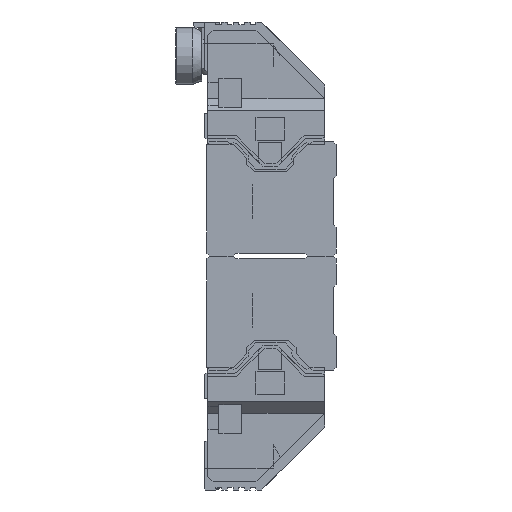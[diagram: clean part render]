
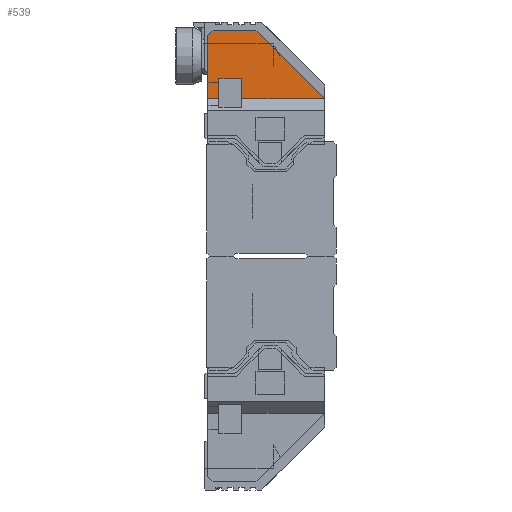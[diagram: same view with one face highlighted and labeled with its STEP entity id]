
A CAD part, left-side view. The second image highlights one B-rep face of the part: STEP entity #539.
In plain terms, the highlighted planar face has unit normal (-1, 0, 0).
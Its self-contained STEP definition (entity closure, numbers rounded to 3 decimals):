
#539 = ADVANCED_FACE( '', ( #1993 ), #1994, .T. );
#1993 = FACE_OUTER_BOUND( '', #4359, .T. );
#1994 = PLANE( '', #4360 );
#4359 = EDGE_LOOP( '', ( #7710, #7711, #7712, #7713, #7714, #7715, #7716, #7717, #7718 ) );
#4360 = AXIS2_PLACEMENT_3D( '', #7719, #7720, #7721 );
#7710 = ORIENTED_EDGE( '', *, *, #12203, .F. );
#7711 = ORIENTED_EDGE( '', *, *, #12212, .T. );
#7712 = ORIENTED_EDGE( '', *, *, #12204, .T. );
#7713 = ORIENTED_EDGE( '', *, *, #12217, .T. );
#7714 = ORIENTED_EDGE( '', *, *, #12218, .F. );
#7715 = ORIENTED_EDGE( '', *, *, #12219, .F. );
#7716 = ORIENTED_EDGE( '', *, *, #12220, .F. );
#7717 = ORIENTED_EDGE( '', *, *, #12221, .F. );
#7718 = ORIENTED_EDGE( '', *, *, #12213, .T. );
#7719 = CARTESIAN_POINT( '', ( -49., 16.5, 48. ) );
#7720 = DIRECTION( '', ( -1., 0., 0. ) );
#7721 = DIRECTION( '', ( 0., 0., 1. ) );
#12203 = EDGE_CURVE( '', #14513, #14506, #14515, .T. );
#12204 = EDGE_CURVE( '', #14516, #14517, #14518, .T. );
#12212 = EDGE_CURVE( '', #14513, #14516, #14529, .T. );
#12213 = EDGE_CURVE( '', #14530, #14506, #14531, .T. );
#12217 = EDGE_CURVE( '', #14517, #14536, #14538, .T. );
#12218 = EDGE_CURVE( '', #14539, #14536, #14540, .T. );
#12219 = EDGE_CURVE( '', #14541, #14539, #14542, .T. );
#12220 = EDGE_CURVE( '', #14543, #14541, #14544, .T. );
#12221 = EDGE_CURVE( '', #14530, #14543, #14545, .T. );
#14506 = VERTEX_POINT( '', #17760 );
#14513 = VERTEX_POINT( '', #17770 );
#14515 = LINE( '', #17773, #17774 );
#14516 = VERTEX_POINT( '', #17775 );
#14517 = VERTEX_POINT( '', #17776 );
#14518 = LINE( '', #17777, #17778 );
#14529 = LINE( '', #17796, #17797 );
#14530 = VERTEX_POINT( '', #17798 );
#14531 = LINE( '', #17799, #17800 );
#14536 = VERTEX_POINT( '', #17807 );
#14538 = LINE( '', #17810, #17811 );
#14539 = VERTEX_POINT( '', #17812 );
#14540 = LINE( '', #17813, #17814 );
#14541 = VERTEX_POINT( '', #17815 );
#14542 = LINE( '', #17816, #17817 );
#14543 = VERTEX_POINT( '', #17818 );
#14544 = LINE( '', #17819, #17820 );
#14545 = LINE( '', #17821, #17822 );
#17760 = CARTESIAN_POINT( '', ( -49., 9.2, 18. ) );
#17770 = CARTESIAN_POINT( '', ( -49., 9.2, 21.5 ) );
#17773 = CARTESIAN_POINT( '', ( -49., 9.2, 48. ) );
#17774 = VECTOR( '', #21788, 1000. );
#17775 = CARTESIAN_POINT( '', ( -49., 5.2, 21.5 ) );
#17776 = CARTESIAN_POINT( '', ( -49., 5.2, 18. ) );
#17777 = CARTESIAN_POINT( '', ( -49., 5.2, 48. ) );
#17778 = VECTOR( '', #21789, 1000. );
#17796 = CARTESIAN_POINT( '', ( -49., 16.5, 21.5 ) );
#17797 = VECTOR( '', #21797, 1000. );
#17798 = CARTESIAN_POINT( '', ( -49., 11.2, 18. ) );
#17799 = CARTESIAN_POINT( '', ( -49., 16.5, 18. ) );
#17800 = VECTOR( '', #21798, 1000. );
#17807 = CARTESIAN_POINT( '', ( -49., -9.3, 18. ) );
#17810 = CARTESIAN_POINT( '', ( -49., 16.5, 18. ) );
#17811 = VECTOR( '', #21802, 1000. );
#17812 = CARTESIAN_POINT( '', ( -49., 2.7, 30. ) );
#17813 = CARTESIAN_POINT( '', ( -49., 2.7, 30. ) );
#17814 = VECTOR( '', #21803, 1000. );
#17815 = CARTESIAN_POINT( '', ( -49., 10.2, 30. ) );
#17816 = CARTESIAN_POINT( '', ( -49., 10.2, 30. ) );
#17817 = VECTOR( '', #21804, 1000. );
#17818 = CARTESIAN_POINT( '', ( -49., 11.2, 29. ) );
#17819 = CARTESIAN_POINT( '', ( -49., 11.2, 29. ) );
#17820 = VECTOR( '', #21805, 1000. );
#17821 = CARTESIAN_POINT( '', ( -49., 11.2, 11.5 ) );
#17822 = VECTOR( '', #21806, 1000. );
#21788 = DIRECTION( '', ( 0., 0., -1. ) );
#21789 = DIRECTION( '', ( 0., 0., -1. ) );
#21797 = DIRECTION( '', ( 0., -1., 0. ) );
#21798 = DIRECTION( '', ( 0., -1., 0. ) );
#21802 = DIRECTION( '', ( 0., -1., 0. ) );
#21803 = DIRECTION( '', ( 0., -0.707, -0.707 ) );
#21804 = DIRECTION( '', ( 0., -1., 0. ) );
#21805 = DIRECTION( '', ( 0., -0.707, 0.707 ) );
#21806 = DIRECTION( '', ( 0., 0., 1. ) );
